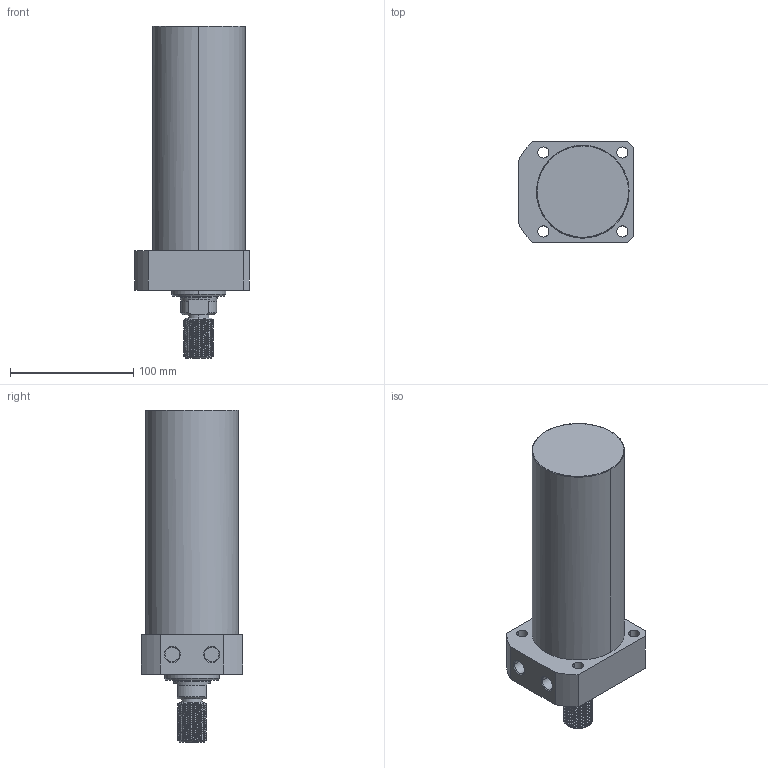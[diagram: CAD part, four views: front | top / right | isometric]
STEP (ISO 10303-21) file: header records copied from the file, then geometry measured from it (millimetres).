
FILE_DESCRIPTION((' '),'2;1');
FILE_NAME( 'TLLR-075CT-145.STEP.stp', '2025-10-24T16:35:14', (' '), ('--- Datakit www.datakit.com---'), ' Datakit CrossCadWare V2024.1 Dec 21 2023', 'Mastercam 2025', ' ');
FILE_SCHEMA(('AUTOMOTIVE_DESIGN { 1 0 10303 214 1 1 1 1 }'));
Length unit declared in the file: millimetre
Products named in the file (1): TLLR-075CT-145
Bounding box: 93 x 82 x 269 mm (x, y, z)
Volume: 1060969.6 mm3; surface area: 79075.6 mm2
Topology: 1 solids, 1 shells, 109 faces, 398 edges, 300 vertices
Faces by surface type: cylinder 69, plane 21, cone 15, torus 2, bspline 2
Entity records: 13053 total; most frequent: CARTESIAN_POINT 9681, ORIENTED_EDGE 796, DIRECTION 545, EDGE_CURVE 398, VERTEX_POINT 300, AXIS2_PLACEMENT_3D 220, B_SPLINE_CURVE_WITH_KNOTS 181, EDGE_LOOP 126
